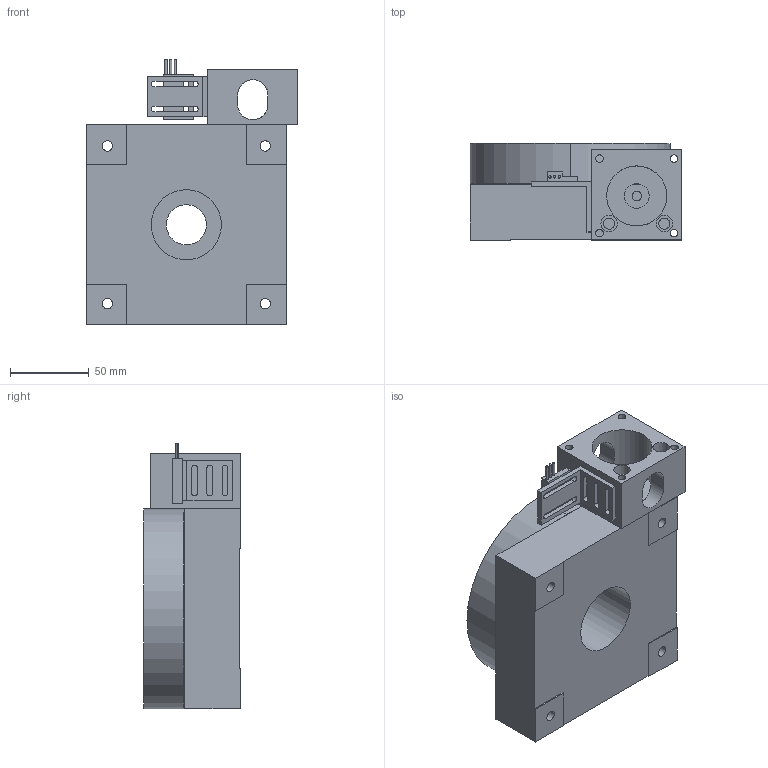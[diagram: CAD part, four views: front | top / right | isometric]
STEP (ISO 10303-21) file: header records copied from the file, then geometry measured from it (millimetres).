
FILE_DESCRIPTION((''),'2;1');
FILE_NAME('M205RT-T3_ASM','2005-02-18T',('BF20108'),(''),'PRO/ENGINEER BY PARAMETRIC TECHNOLOGY CORPORATION, 2004400','PRO/ENGINEER BY PARAMETRIC TECHNOLOGY CORPORATION, 2004400','');
FILE_SCHEMA(('CONFIG_CONTROL_DESIGN'));
Products named in the file (7): M5RO-BASE; M23-MB-02; AZ-TOP-802-4326; 000-4457-SW-BRKT; 003-1145-SWITCH; ROTARY-TBL-HOME-SW_ASM; M205RT-T3_ASM
Assembly tree (6 placements, depth 3):
  M205RT-T3_ASM
    M5RO-BASE
    M23-MB-02
    AZ-TOP-802-4326
    ROTARY-TBL-HOME-SW_ASM
      000-4457-SW-BRKT
      003-1145-SWITCH
Bounding box: 134.18 x 61.47 x 168.55 mm (x, y, z)
Volume: 870151.1 mm3; surface area: 124235 mm2
Topology: 5 solids, 13 shells, 179 faces, 476 edges, 322 vertices
Faces by surface type: cylinder 100, plane 79
Entity records: 6077 total; most frequent: CARTESIAN_POINT 1101, DIRECTION 1072, ORIENTED_EDGE 920, EDGE_CURVE 476, AXIS2_PLACEMENT_3D 410, VERTEX_POINT 322, EDGE_LOOP 256, VECTOR 252
